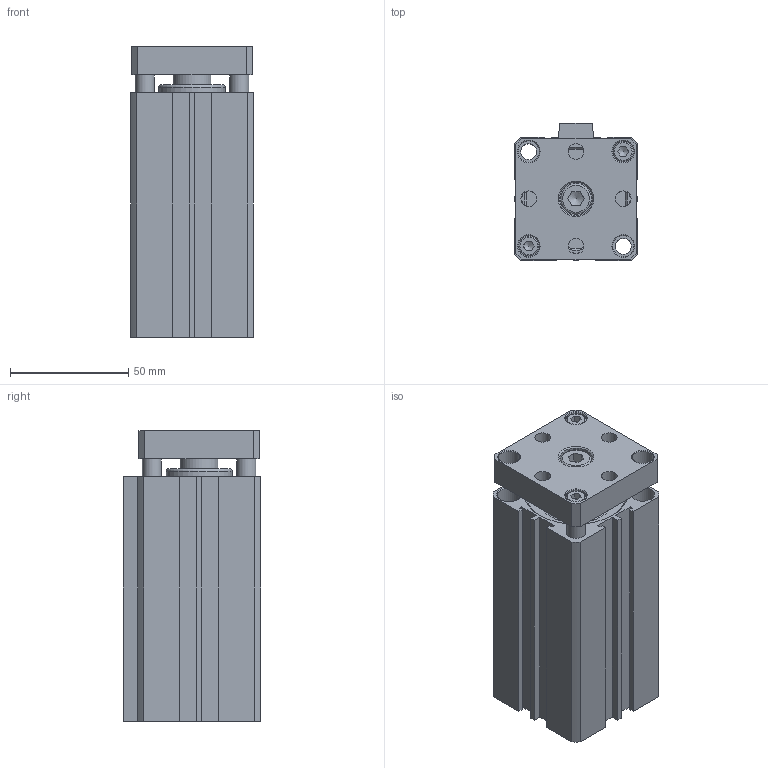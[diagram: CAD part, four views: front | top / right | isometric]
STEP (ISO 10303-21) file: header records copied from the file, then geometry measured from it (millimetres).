
FILE_DESCRIPTION((''),'2;1');
FILE_NAME('I:\3D電子目錄\氣缸\JTD\JTD\JTD40\JTD40x75.stp','2007-08-14T18:55:16',('Administrator'),(''),'Autodesk Inventor 11','Autodesk Inventor 11','');
FILE_SCHEMA(('AUTOMOTIVE_DESIGN { 1 0 10303 214 1 1 1 1 }'));
Length unit declared in the file: millimetre
Products named in the file (5): JTD40; R 形環 42; ISO 4762 M8 x 12; ISO 4762 M5 x 16
Assembly tree (5 placements, depth 2):
  JTD40
    JTD40
    R 形環 42
    ISO 4762 M8 x 12
    ISO 4762 M5 x 16  x2
Bounding box: 52 x 58 x 123.1 mm (x, y, z)
Volume: 272364.9 mm3; surface area: 60998.9 mm2
Topology: 5 solids, 5 shells, 195 faces, 448 edges, 290 vertices
Faces by surface type: plane 113, cylinder 43, cone 18, bspline 16, torus 5
Full cylindrical faces by diameter (mm): 1.9 x2, 2.2 x2, 5 x2, 6.8 x2, 8 x5, 8.5 x2, 9 x2, 9.5 x2, 10 x2, 13 x1, 16 x1, 28 x1, 29 x1, 42 x4, 44.5 x2
Entity records: 5157 total; most frequent: CARTESIAN_POINT 1103, DIRECTION 814, ORIENTED_EDGE 704, EDGE_CURVE 352, AXIS2_PLACEMENT_3D 299, EDGE_LOOP 294, VERTEX_POINT 266, VECTOR 216
